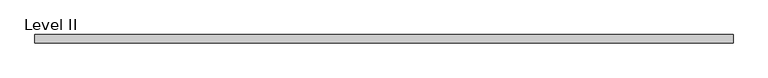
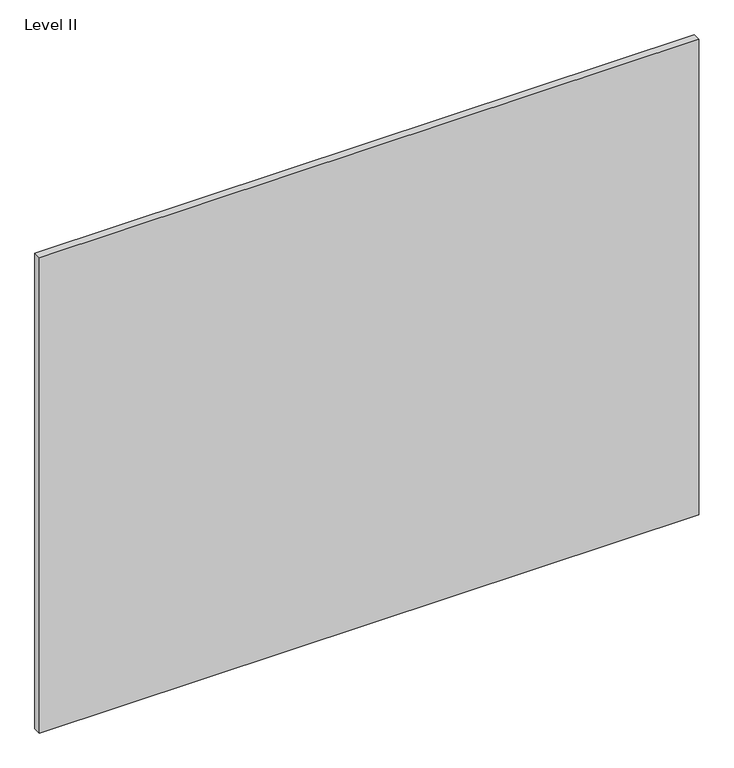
"""IFC4 building model written with IfcOpenShell, lengths in millimetres: proxy geometry, Panel-Fascia-Teknion-Altos-Landscape : Level II."""

from ifc_helpers import new_model, si_unit, frame, origin, place, context, project, spatial, polyline, outline, extrude, source, transform, mapped, element, save


def level_ii_fc3b3d38(model_context):
    return source(origin(), model_context, "Body", "SweptSolid", [
        extrude(outline(polyline([(795.6407125, 9.525), (795.6407125, -9.525), (-795.6407125, -9.525), (-795.6407125, 9.525), (795.6407125, 9.525)])), frame((0.0, 0.0, 3.175), z_axis=(0.0, 0.0, 1.0), x_axis=(1.0, 0.0, 0.0)), (0.0, 0.0, 1.0), 1212.85),
    ])


if __name__ == "__main__":
    model = new_model("IFC4")
    model_context = context("Model", 3, world=origin())
    ifc_project = project(units=[si_unit("LENGTHUNIT", "METRE", prefix="MILLI")], contexts=[model_context])
    site = spatial("IfcSite", under=ifc_project)
    building = spatial("IfcBuilding", under=site)
    placement = place(None, origin())
    level_ii_shape = level_ii_fc3b3d38(model_context)
    element("IfcBuildingElementProxy", 1, Name="Panel-Fascia-Teknion-Altos-Landscape : Level II", ObjectType="Panel-Fascia-Teknion-Altos-Landscape : Level II", at=placement, inside=building, context=model_context, shape_type="MappedRepresentation", body=[
        mapped(level_ii_shape, transform((0.0, 0.0, 0.0), x_axis=(1.0, 0.0, 0.0), y_axis=(0.0, 1.0, 0.0), z_axis=(0.0, 0.0, 1.0))),
    ])
    save(model, "model.ifc")
